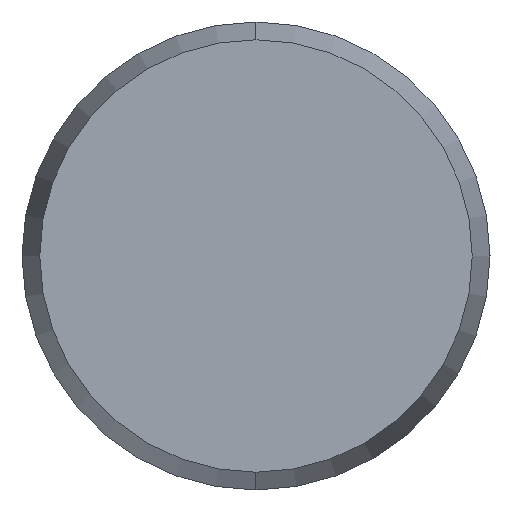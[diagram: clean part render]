
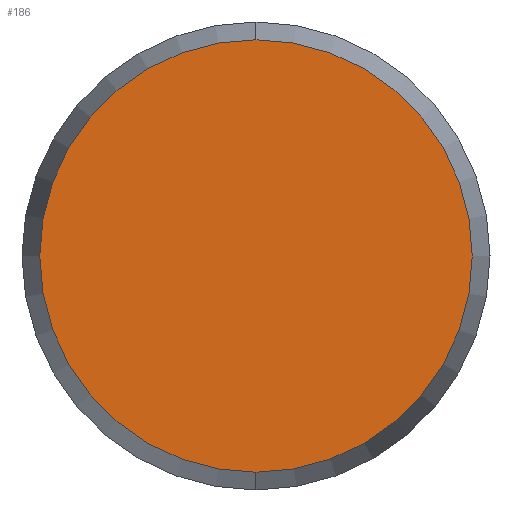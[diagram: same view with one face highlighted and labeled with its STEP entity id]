
A CAD part, left-side view. The second image highlights one B-rep face of the part: STEP entity #186.
In plain terms, the highlighted planar face has unit normal (-1, 0, 0).
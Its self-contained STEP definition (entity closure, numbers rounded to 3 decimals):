
#14 = CIRCLE ( 'NONE', #26, 5.544 ) ;
#25 = DIRECTION ( 'NONE',  ( 1., 0., 0. ) ) ;
#26 = AXIS2_PLACEMENT_3D ( 'NONE', #28, #25, #27 ) ;
#27 = DIRECTION ( 'NONE',  ( 0., 0., -1. ) ) ;
#28 = CARTESIAN_POINT ( 'NONE',  ( -30., 0., 0. ) ) ;
#29 = CARTESIAN_POINT ( 'NONE',  ( -30., 0., 5.544 ) ) ;
#34 = CARTESIAN_POINT ( 'NONE',  ( -30., 0., -5.544 ) ) ;
#141 = DIRECTION ( 'NONE',  ( 0., 0., -1. ) ) ;
#142 = DIRECTION ( 'NONE',  ( 1., 0., 0. ) ) ;
#143 = CARTESIAN_POINT ( 'NONE',  ( -30., 0., 0. ) ) ;
#145 = AXIS2_PLACEMENT_3D ( 'NONE', #143, #142, #141 ) ;
#146 = PLANE ( 'NONE',  #145 ) ;
#147 = FACE_OUTER_BOUND ( 'NONE', #219, .T. ) ;
#148 = DIRECTION ( 'NONE',  ( 0., 0., -1. ) ) ;
#149 = DIRECTION ( 'NONE',  ( 1., 0., 0. ) ) ;
#150 = CARTESIAN_POINT ( 'NONE',  ( -30., 0., 0. ) ) ;
#151 = AXIS2_PLACEMENT_3D ( 'NONE', #150, #149, #148 ) ;
#152 = CIRCLE ( 'NONE', #151, 5.544 ) ;
#183 = EDGE_CURVE ( 'NONE', #266, #265, #152, .T. ) ;
#186 = ADVANCED_FACE ( 'NONE', ( #147 ), #146, .F. ) ;
#219 = EDGE_LOOP ( 'NONE', ( #220, #221 ) ) ;
#220 = ORIENTED_EDGE ( 'NONE', *, *, #264, .F. ) ;
#221 = ORIENTED_EDGE ( 'NONE', *, *, #183, .F. ) ;
#264 = EDGE_CURVE ( 'NONE', #265, #266, #14, .T. ) ;
#265 = VERTEX_POINT ( 'NONE', #29 ) ;
#266 = VERTEX_POINT ( 'NONE', #34 ) ;
